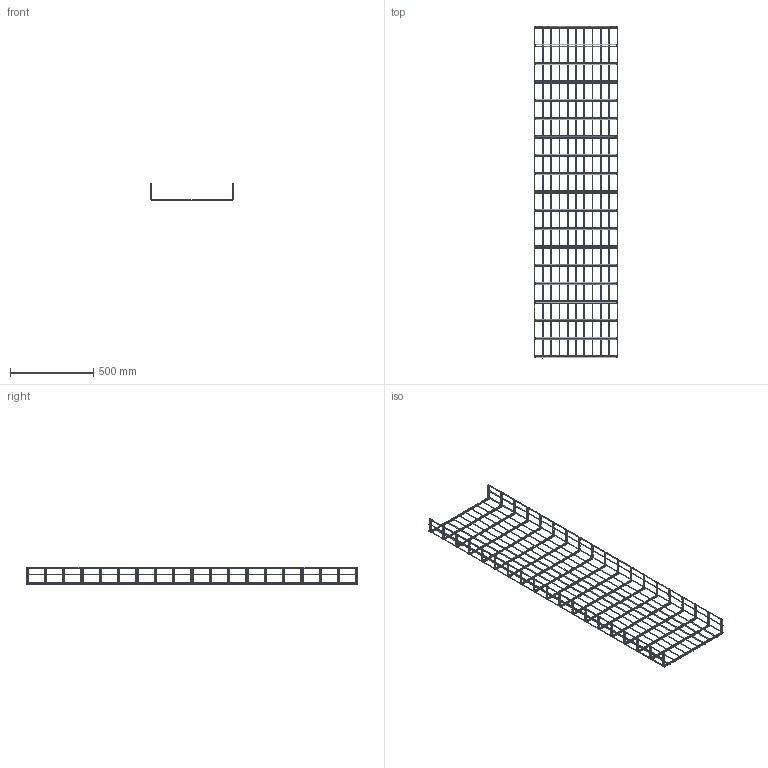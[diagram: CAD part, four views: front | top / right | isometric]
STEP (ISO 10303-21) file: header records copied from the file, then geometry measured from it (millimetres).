
FILE_DESCRIPTION(/* description */ (''),/* implementation_level */ '2;1');
FILE_NAME(/* name */ 'M2_500×100',/* time_stamp */ '2012-11-29T22:13:47+01:00',/* author */ (''),/* organization */ (''),/* preprocessor_version */ 'ST-DEVELOPER v10',/* originating_system */ '',/* authorisation */ '');
FILE_SCHEMA (('AUTOMOTIVE_DESIGN_CC2'));
Length unit declared in the file: millimetre
Products named in the file (1): 1
Bounding box: 504.19 x 1993.53 x 103.94 mm (x, y, z)
Surface area: 665870.3 mm2 (no closed solid volume)
Topology: 0 solids, 345 shells, 660 faces, 1920 edges, 1290 vertices
Faces by surface type: bspline 630, plane 30
Entity records: 53838 total; most frequent: CARTESIAN_POINT 41456, ORIENTED_EDGE 2550, EDGE_CURVE 1920, VERTEX_POINT 1290, B_SPLINE_CURVE_WITH_KNOTS 702, ADVANCED_FACE 660, FACE_OUTER_BOUND 660, EDGE_LOOP 660
